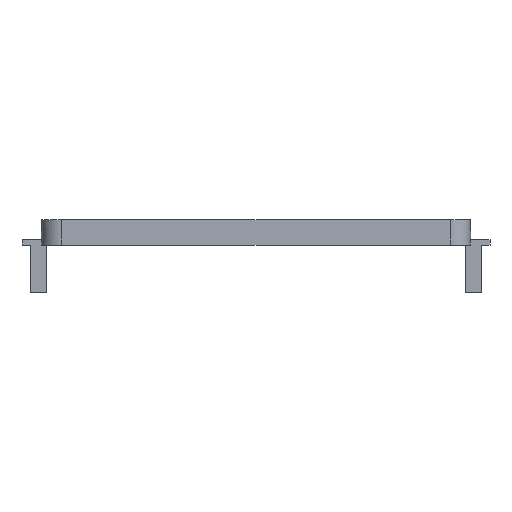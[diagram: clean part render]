
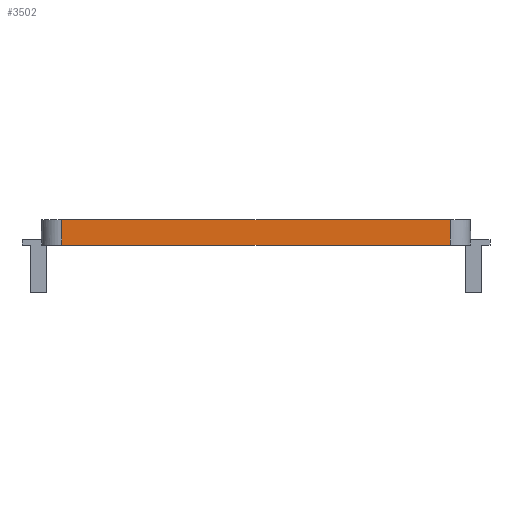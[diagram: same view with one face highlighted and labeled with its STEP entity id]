
A CAD part, front view. The second image highlights one B-rep face of the part: STEP entity #3502.
In plain terms, the highlighted planar face has unit normal (0, -1, 0).
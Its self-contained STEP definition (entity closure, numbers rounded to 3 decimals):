
#235 = PLANE('',#236);
#236 = AXIS2_PLACEMENT_3D('',#237,#238,#239);
#237 = CARTESIAN_POINT('',(-32.,-26.,0.5));
#238 = DIRECTION('',(0.,0.,1.));
#239 = DIRECTION('',(1.,0.,0.));
#439 = CYLINDRICAL_SURFACE('',#440,3.);
#440 = AXIS2_PLACEMENT_3D('',#441,#442,#443);
#441 = CARTESIAN_POINT('',(-29.,-23.,0.5));
#442 = DIRECTION('',(0.,0.,1.));
#443 = DIRECTION('',(-1.,-0.,0.));
#793 = PLANE('',#794);
#794 = AXIS2_PLACEMENT_3D('',#795,#796,#797);
#795 = CARTESIAN_POINT('',(-32.,-26.,4.3));
#796 = DIRECTION('',(0.,0.,1.));
#797 = DIRECTION('',(1.,0.,0.));
#832 = VERTEX_POINT('',#833);
#833 = CARTESIAN_POINT('',(-29.,-26.,0.5));
#855 = EDGE_CURVE('',#832,#856,#858,.T.);
#856 = VERTEX_POINT('',#857);
#857 = CARTESIAN_POINT('',(29.,-26.,0.5));
#858 = SURFACE_CURVE('',#859,(#863,#870),.PCURVE_S1.);
#859 = LINE('',#860,#861);
#860 = CARTESIAN_POINT('',(-32.,-26.,0.5));
#861 = VECTOR('',#862,1.);
#862 = DIRECTION('',(1.,0.,0.));
#863 = PCURVE('',#235,#864);
#864 = DEFINITIONAL_REPRESENTATION('',(#865),#869);
#865 = LINE('',#866,#867);
#866 = CARTESIAN_POINT('',(0.,0.));
#867 = VECTOR('',#868,1.);
#868 = DIRECTION('',(1.,0.));
#869 = ( GEOMETRIC_REPRESENTATION_CONTEXT(2) 
PARAMETRIC_REPRESENTATION_CONTEXT() REPRESENTATION_CONTEXT('2D SPACE',''
  ) );
#870 = PCURVE('',#871,#876);
#871 = PLANE('',#872);
#872 = AXIS2_PLACEMENT_3D('',#873,#874,#875);
#873 = CARTESIAN_POINT('',(-32.,-26.,0.5));
#874 = DIRECTION('',(0.,1.,0.));
#875 = DIRECTION('',(0.,0.,1.));
#876 = DEFINITIONAL_REPRESENTATION('',(#877),#881);
#877 = LINE('',#878,#879);
#878 = CARTESIAN_POINT('',(0.,0.));
#879 = VECTOR('',#880,1.);
#880 = DIRECTION('',(0.,1.));
#881 = ( GEOMETRIC_REPRESENTATION_CONTEXT(2) 
PARAMETRIC_REPRESENTATION_CONTEXT() REPRESENTATION_CONTEXT('2D SPACE',''
  ) );
#904 = CYLINDRICAL_SURFACE('',#905,3.);
#905 = AXIS2_PLACEMENT_3D('',#906,#907,#908);
#906 = CARTESIAN_POINT('',(29.,-23.,0.5));
#907 = DIRECTION('',(0.,0.,1.));
#908 = DIRECTION('',(1.,0.,-0.));
#1439 = EDGE_CURVE('',#832,#1440,#1442,.T.);
#1440 = VERTEX_POINT('',#1441);
#1441 = CARTESIAN_POINT('',(-29.,-26.,4.3));
#1442 = SURFACE_CURVE('',#1443,(#1447,#1454),.PCURVE_S1.);
#1443 = LINE('',#1444,#1445);
#1444 = CARTESIAN_POINT('',(-29.,-26.,0.5));
#1445 = VECTOR('',#1446,1.);
#1446 = DIRECTION('',(0.,0.,1.));
#1447 = PCURVE('',#439,#1448);
#1448 = DEFINITIONAL_REPRESENTATION('',(#1449),#1453);
#1449 = LINE('',#1450,#1451);
#1450 = CARTESIAN_POINT('',(1.571,0.));
#1451 = VECTOR('',#1452,1.);
#1452 = DIRECTION('',(0.,1.));
#1453 = ( GEOMETRIC_REPRESENTATION_CONTEXT(2) 
PARAMETRIC_REPRESENTATION_CONTEXT() REPRESENTATION_CONTEXT('2D SPACE',''
  ) );
#1454 = PCURVE('',#871,#1455);
#1455 = DEFINITIONAL_REPRESENTATION('',(#1456),#1460);
#1456 = LINE('',#1457,#1458);
#1457 = CARTESIAN_POINT('',(0.,3.));
#1458 = VECTOR('',#1459,1.);
#1459 = DIRECTION('',(1.,0.));
#1460 = ( GEOMETRIC_REPRESENTATION_CONTEXT(2) 
PARAMETRIC_REPRESENTATION_CONTEXT() REPRESENTATION_CONTEXT('2D SPACE',''
  ) );
#1874 = EDGE_CURVE('',#1440,#1875,#1877,.T.);
#1875 = VERTEX_POINT('',#1876);
#1876 = CARTESIAN_POINT('',(29.,-26.,4.3));
#1877 = SURFACE_CURVE('',#1878,(#1882,#1889),.PCURVE_S1.);
#1878 = LINE('',#1879,#1880);
#1879 = CARTESIAN_POINT('',(-32.,-26.,4.3));
#1880 = VECTOR('',#1881,1.);
#1881 = DIRECTION('',(1.,0.,0.));
#1882 = PCURVE('',#793,#1883);
#1883 = DEFINITIONAL_REPRESENTATION('',(#1884),#1888);
#1884 = LINE('',#1885,#1886);
#1885 = CARTESIAN_POINT('',(0.,0.));
#1886 = VECTOR('',#1887,1.);
#1887 = DIRECTION('',(1.,0.));
#1888 = ( GEOMETRIC_REPRESENTATION_CONTEXT(2) 
PARAMETRIC_REPRESENTATION_CONTEXT() REPRESENTATION_CONTEXT('2D SPACE',''
  ) );
#1889 = PCURVE('',#871,#1890);
#1890 = DEFINITIONAL_REPRESENTATION('',(#1891),#1895);
#1891 = LINE('',#1892,#1893);
#1892 = CARTESIAN_POINT('',(3.8,0.));
#1893 = VECTOR('',#1894,1.);
#1894 = DIRECTION('',(0.,1.));
#1895 = ( GEOMETRIC_REPRESENTATION_CONTEXT(2) 
PARAMETRIC_REPRESENTATION_CONTEXT() REPRESENTATION_CONTEXT('2D SPACE',''
  ) );
#3458 = EDGE_CURVE('',#856,#1875,#3459,.T.);
#3459 = SURFACE_CURVE('',#3460,(#3464,#3471),.PCURVE_S1.);
#3460 = LINE('',#3461,#3462);
#3461 = CARTESIAN_POINT('',(29.,-26.,0.5));
#3462 = VECTOR('',#3463,1.);
#3463 = DIRECTION('',(0.,0.,1.));
#3464 = PCURVE('',#904,#3465);
#3465 = DEFINITIONAL_REPRESENTATION('',(#3466),#3470);
#3466 = LINE('',#3467,#3468);
#3467 = CARTESIAN_POINT('',(-1.571,0.));
#3468 = VECTOR('',#3469,1.);
#3469 = DIRECTION('',(-0.,1.));
#3470 = ( GEOMETRIC_REPRESENTATION_CONTEXT(2) 
PARAMETRIC_REPRESENTATION_CONTEXT() REPRESENTATION_CONTEXT('2D SPACE',''
  ) );
#3471 = PCURVE('',#871,#3472);
#3472 = DEFINITIONAL_REPRESENTATION('',(#3473),#3477);
#3473 = LINE('',#3474,#3475);
#3474 = CARTESIAN_POINT('',(0.,61.));
#3475 = VECTOR('',#3476,1.);
#3476 = DIRECTION('',(1.,0.));
#3477 = ( GEOMETRIC_REPRESENTATION_CONTEXT(2) 
PARAMETRIC_REPRESENTATION_CONTEXT() REPRESENTATION_CONTEXT('2D SPACE',''
  ) );
#3502 = ADVANCED_FACE('',(#3503),#871,.F.);
#3503 = FACE_BOUND('',#3504,.F.);
#3504 = EDGE_LOOP('',(#3505,#3506,#3507,#3508));
#3505 = ORIENTED_EDGE('',*,*,#855,.F.);
#3506 = ORIENTED_EDGE('',*,*,#1439,.T.);
#3507 = ORIENTED_EDGE('',*,*,#1874,.T.);
#3508 = ORIENTED_EDGE('',*,*,#3458,.F.);
